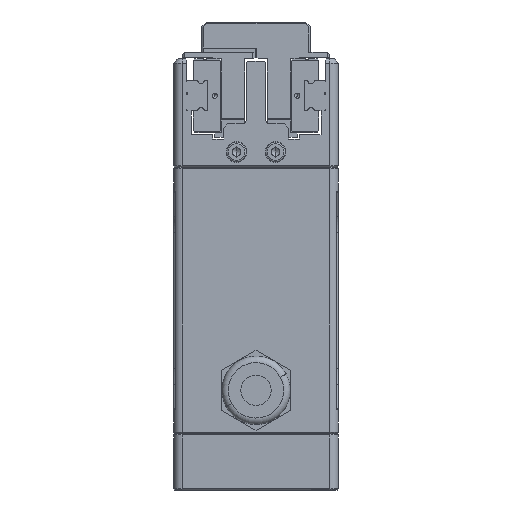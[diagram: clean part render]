
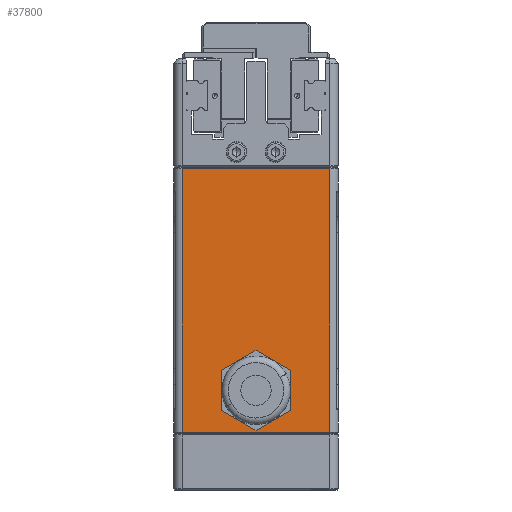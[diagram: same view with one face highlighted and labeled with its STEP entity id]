
A CAD part, left-side view. The second image highlights one B-rep face of the part: STEP entity #37800.
In plain terms, the highlighted planar face has unit normal (-1, 0, 0).
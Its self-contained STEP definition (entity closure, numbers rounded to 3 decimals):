
#1607 = ORIENTED_EDGE ( 'NONE', *, *, #29859, .F. ) ;
#3658 = ORIENTED_EDGE ( 'NONE', *, *, #12651, .F. ) ;
#3920 = LINE ( 'NONE', #25391, #27885 ) ;
#3922 = CARTESIAN_POINT ( 'NONE',  ( -30.8, 17., 49.589 ) ) ;
#5012 = DIRECTION ( 'NONE',  ( 0., 0., 1. ) ) ;
#5463 = DIRECTION ( 'NONE',  ( 0., 0.866, -0.5 ) ) ;
#5569 = CARTESIAN_POINT ( 'NONE',  ( -30.8, -4., -8.539 ) ) ;
#6003 = VECTOR ( 'NONE', #33262, 1000. ) ;
#6149 = LINE ( 'NONE', #37393, #37639 ) ;
#6393 = EDGE_CURVE ( 'NONE', #23203, #43167, #3920, .T. ) ;
#6575 = VERTEX_POINT ( 'NONE', #22012 ) ;
#7672 = LINE ( 'NONE', #10085, #51133 ) ;
#7937 = LINE ( 'NONE', #37313, #6003 ) ;
#8388 = CARTESIAN_POINT ( 'NONE',  ( -30.8, -4., 5.317 ) ) ;
#9652 = ORIENTED_EDGE ( 'NONE', *, *, #12371, .T. ) ;
#10085 = CARTESIAN_POINT ( 'NONE',  ( -30.8, 0., 49.589 ) ) ;
#10658 = CARTESIAN_POINT ( 'NONE',  ( -30.8, -8., -6.23 ) ) ;
#11451 = EDGE_CURVE ( 'NONE', #33804, #20149, #7672, .T. ) ;
#12371 = EDGE_CURVE ( 'NONE', #30968, #33804, #6149, .T. ) ;
#12651 = EDGE_CURVE ( 'NONE', #43167, #38704, #36318, .T. ) ;
#13073 = CARTESIAN_POINT ( 'NONE',  ( -30.8, 17., -11.311 ) ) ;
#13211 = VERTEX_POINT ( 'NONE', #23783 ) ;
#14815 = DIRECTION ( 'NONE',  ( 0., 0., 1. ) ) ;
#16960 = DIRECTION ( 'NONE',  ( 0., 0.866, 0.5 ) ) ;
#17575 = ORIENTED_EDGE ( 'NONE', *, *, #17991, .F. ) ;
#17991 = EDGE_CURVE ( 'NONE', #38704, #6575, #7937, .T. ) ;
#18114 = EDGE_CURVE ( 'NONE', #36807, #20149, #39924, .T. ) ;
#19254 = CARTESIAN_POINT ( 'NONE',  ( -30.8, -17., 49.589 ) ) ;
#20149 = VERTEX_POINT ( 'NONE', #3922 ) ;
#20907 = ORIENTED_EDGE ( 'NONE', *, *, #6393, .F. ) ;
#22012 = CARTESIAN_POINT ( 'NONE',  ( -30.8, 0., -10.849 ) ) ;
#22223 = PLANE ( 'NONE',  #44134 ) ;
#22268 = FACE_BOUND ( 'NONE', #46920, .T. ) ;
#22567 = EDGE_LOOP ( 'NONE', ( #37101, #9652, #24596, #27233 ) ) ;
#22735 = DIRECTION ( 'NONE',  ( 0., 0., 1. ) ) ;
#23203 = VERTEX_POINT ( 'NONE', #28754 ) ;
#23783 = CARTESIAN_POINT ( 'NONE',  ( -30.8, -8., 3.008 ) ) ;
#24596 = ORIENTED_EDGE ( 'NONE', *, *, #11451, .T. ) ;
#25391 = CARTESIAN_POINT ( 'NONE',  ( -30.8, 4., 5.317 ) ) ;
#25546 = VERTEX_POINT ( 'NONE', #10658 ) ;
#26115 = VECTOR ( 'NONE', #14815, 1000. ) ;
#27233 = ORIENTED_EDGE ( 'NONE', *, *, #18114, .F. ) ;
#27497 = VECTOR ( 'NONE', #30867, 1000. ) ;
#27885 = VECTOR ( 'NONE', #5463, 1000. ) ;
#28754 = CARTESIAN_POINT ( 'NONE',  ( -30.8, 0., 7.627 ) ) ;
#28913 = ORIENTED_EDGE ( 'NONE', *, *, #34570, .F. ) ;
#29081 = LINE ( 'NONE', #5569, #47347 ) ;
#29859 = EDGE_CURVE ( 'NONE', #25546, #13211, #34060, .T. ) ;
#30867 = DIRECTION ( 'NONE',  ( 0., 0., -1. ) ) ;
#30968 = VERTEX_POINT ( 'NONE', #40338 ) ;
#31508 = VECTOR ( 'NONE', #16960, 1000. ) ;
#31560 = CARTESIAN_POINT ( 'NONE',  ( -30.8, 8., -1.611 ) ) ;
#32515 = CARTESIAN_POINT ( 'NONE',  ( -30.8, -8., -1.611 ) ) ;
#32685 = EDGE_CURVE ( 'NONE', #36807, #30968, #43336, .T. ) ;
#32695 = DIRECTION ( 'NONE',  ( 0., 0., 1. ) ) ;
#33262 = DIRECTION ( 'NONE',  ( 0., -0.866, -0.5 ) ) ;
#33553 = DIRECTION ( 'NONE',  ( 0., -0.866, 0.5 ) ) ;
#33804 = VERTEX_POINT ( 'NONE', #19254 ) ;
#34060 = LINE ( 'NONE', #32515, #40949 ) ;
#34570 = EDGE_CURVE ( 'NONE', #13211, #23203, #37829, .T. ) ;
#36318 = LINE ( 'NONE', #31560, #27497 ) ;
#36807 = VERTEX_POINT ( 'NONE', #13073 ) ;
#37101 = ORIENTED_EDGE ( 'NONE', *, *, #32685, .T. ) ;
#37313 = CARTESIAN_POINT ( 'NONE',  ( -30.8, 4., -8.539 ) ) ;
#37393 = CARTESIAN_POINT ( 'NONE',  ( -30.8, -17., 19.139 ) ) ;
#37639 = VECTOR ( 'NONE', #5012, 1000. ) ;
#37800 = ADVANCED_FACE ( 'NONE', ( #41772, #22268 ), #22223, .F. ) ;
#37829 = LINE ( 'NONE', #8388, #31508 ) ;
#38216 = CARTESIAN_POINT ( 'NONE',  ( -30.8, -19., -11.611 ) ) ;
#38704 = VERTEX_POINT ( 'NONE', #45681 ) ;
#39436 = CARTESIAN_POINT ( 'NONE',  ( -30.8, 8., 3.008 ) ) ;
#39924 = LINE ( 'NONE', #43464, #26115 ) ;
#40338 = CARTESIAN_POINT ( 'NONE',  ( -30.8, -17., -11.311 ) ) ;
#40787 = VECTOR ( 'NONE', #42439, 1000. ) ;
#40949 = VECTOR ( 'NONE', #32695, 1000. ) ;
#41251 = EDGE_CURVE ( 'NONE', #6575, #25546, #29081, .T. ) ;
#41772 = FACE_OUTER_BOUND ( 'NONE', #22567, .T. ) ;
#42068 = DIRECTION ( 'NONE',  ( 1., 0., 0. ) ) ;
#42430 = DIRECTION ( 'NONE',  ( 0., 1., 0. ) ) ;
#42439 = DIRECTION ( 'NONE',  ( 0., -1., 0. ) ) ;
#43167 = VERTEX_POINT ( 'NONE', #39436 ) ;
#43336 = LINE ( 'NONE', #50603, #40787 ) ;
#43464 = CARTESIAN_POINT ( 'NONE',  ( -30.8, 17., 19.139 ) ) ;
#44134 = AXIS2_PLACEMENT_3D ( 'NONE', #38216, #42068, #22735 ) ;
#45681 = CARTESIAN_POINT ( 'NONE',  ( -30.8, 8., -6.23 ) ) ;
#46920 = EDGE_LOOP ( 'NONE', ( #28913, #1607, #49708, #17575, #3658, #20907 ) ) ;
#47347 = VECTOR ( 'NONE', #33553, 1000. ) ;
#49708 = ORIENTED_EDGE ( 'NONE', *, *, #41251, .F. ) ;
#50603 = CARTESIAN_POINT ( 'NONE',  ( -30.8, 0., -11.311 ) ) ;
#51133 = VECTOR ( 'NONE', #42430, 1000. ) ;
